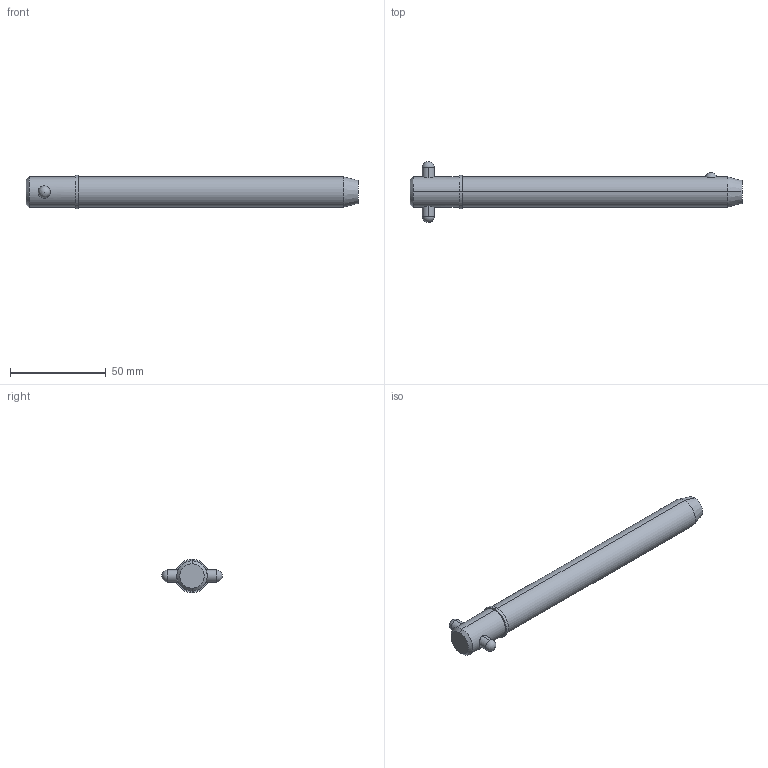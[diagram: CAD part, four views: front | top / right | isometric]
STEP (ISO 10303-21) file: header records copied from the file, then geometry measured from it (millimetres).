
FILE_DESCRIPTION (( 'STEP AP203' ), '1' );
FILE_NAME ('33018.W6250.step', '2024-11-19T17:19:08', ( '' ), ( '' ), 'SwSTEP 2.0', 'SolidWorks 2019', '' );
FILE_SCHEMA (( 'CONFIG_CONTROL_DESIGN' ));
Length unit declared in the file: millimetre
Products named in the file (3): 33018.W6250; Part1_33018.W6250; Part2_33018.W6250
Assembly tree (2 placements, depth 2):
  33018.W6250
    Part1_33018.W6250
    Part2_33018.W6250
Bounding box: 173.36 x 31.75 x 17.47 mm (x, y, z)
Volume: 34488 mm3; surface area: 9855.3 mm2
Topology: 2 solids, 2 shells, 22 faces, 47 edges, 30 vertices
Faces by surface type: cylinder 10, sphere 4, cone 4, plane 4
Entity records: 1047 total; most frequent: CARTESIAN_POINT 290, DIRECTION 110, ORIENTED_EDGE 82, AXIS2_PLACEMENT_3D 48, EDGE_CURVE 41, EDGE_LOOP 27, VERTEX_POINT 26, PERSON_AND_ORGANIZATION 26
